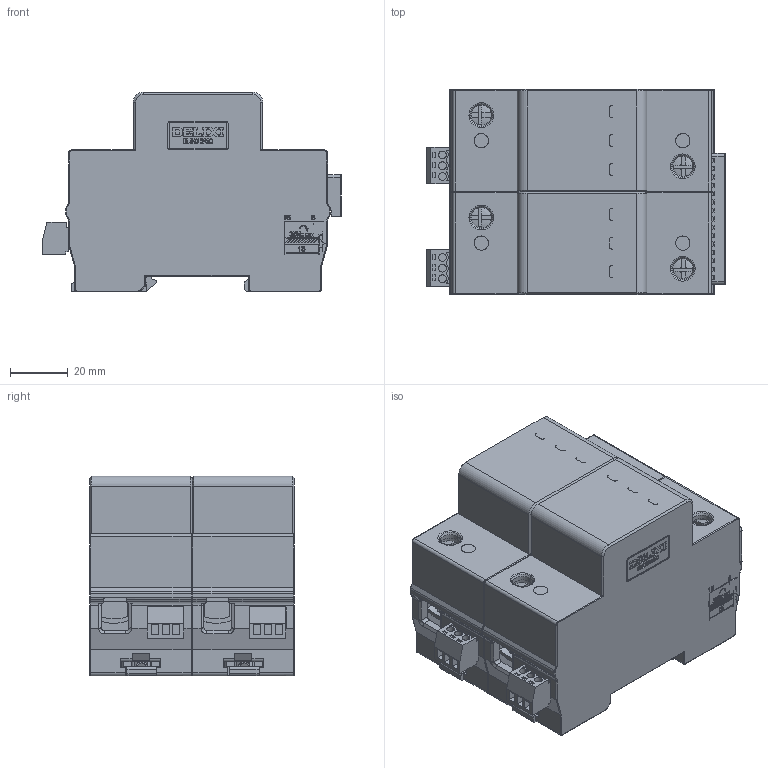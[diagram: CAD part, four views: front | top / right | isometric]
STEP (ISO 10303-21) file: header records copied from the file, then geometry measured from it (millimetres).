
FILE_DESCRIPTION((''),'2;1');
FILE_NAME('2207002700_SW0004','2023-03-16T',('linxiao.guan'),(''),'PRO/ENGINEER BY PARAMETRIC TECHNOLOGY CORPORATION, 2015440','PRO/ENGINEER BY PARAMETRIC TECHNOLOGY CORPORATION, 2015440','');
FILE_SCHEMA(('CONFIG_CONTROL_DESIGN'));
Products named in the file (1): 2207002700_SW0004
Bounding box: 103.8 x 71.2 x 69.4 mm (x, y, z)
Volume: 120171.1 mm3; surface area: 116409.3 mm2
Topology: 1 solids, 1 shells, 3983 faces, 11319 edges, 7393 vertices
Faces by surface type: plane 3186, cylinder 577, torus 78, cone 74, bspline 52, sphere 16
Entity records: 150090 total; most frequent: CARTESIAN_POINT 45651, ORIENTED_EDGE 22638, DIRECTION 20271, EDGE_CURVE 11319, VECTOR 9511, LINE 9511, VERTEX_POINT 7393, AXIS2_PLACEMENT_3D 5380
